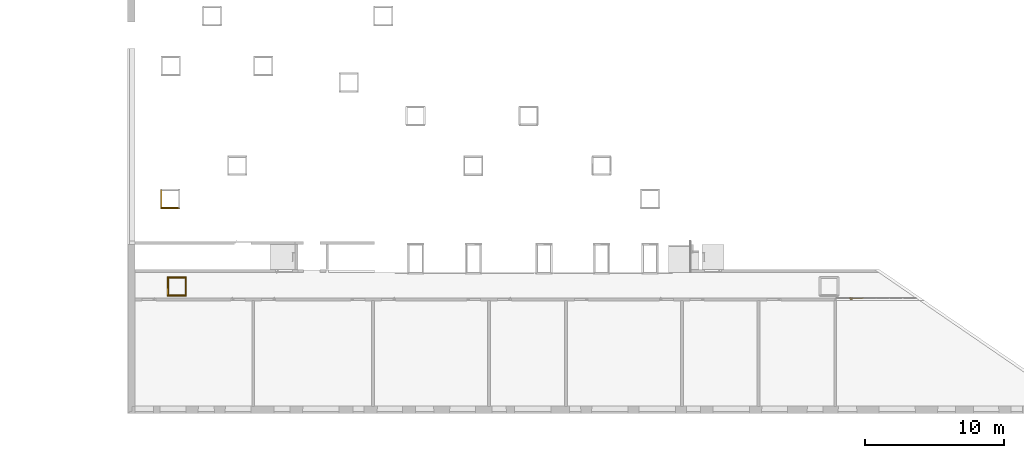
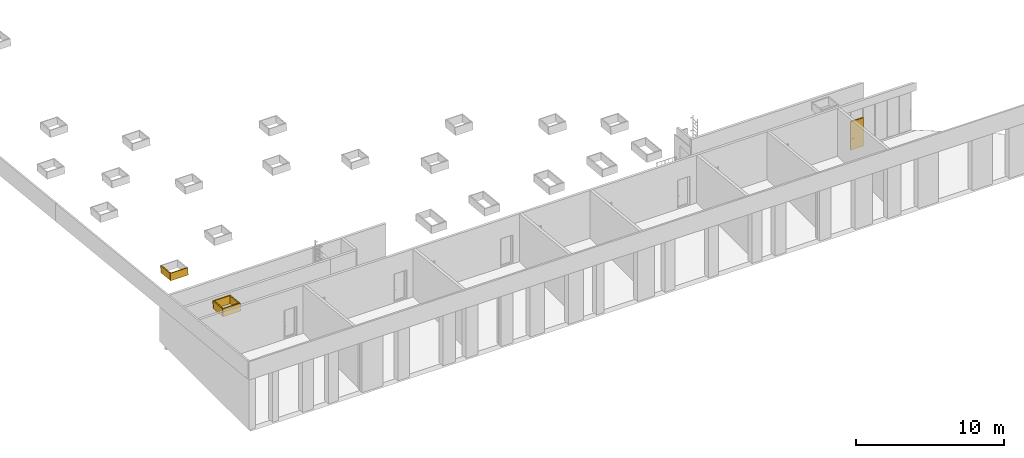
# One storey, part 11 of 23: 6 coverings, 1 door, 1 element without a shape of its own.
"""IFC2X3 building model written with IfcOpenShell, lengths in millimetres."""

from ifc_helpers import new_model, entity, si_unit, converted_unit, derived_unit, money_unit, direction, frame, origin_with_axes, place, context, subcontext, project, spatial, open_shell, faceted_brep, surface_model, material, material_list, type_object, element, aggregate, save


model = new_model("IFC2X3")

# Units and contexts
model_context = context("Model", 3, precision=0.01, world=origin_with_axes(), true_north=direction((0.0, 1.0)))
body_context = subcontext(model_context, "Body", "Model", "MODEL_VIEW")
ifc_project = project(units=[si_unit("LENGTHUNIT", "METRE", prefix="MILLI"), si_unit("AREAUNIT", "SQUARE_METRE"), si_unit("VOLUMEUNIT", "CUBIC_METRE"), converted_unit("PLANEANGLEUNIT", "DEGREE", entity("IfcPlaneAngleMeasure", 0.0174532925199), si_unit("PLANEANGLEUNIT", "RADIAN"), dimensions=[0, 0, 0, 0, 0, 0, 0]), si_unit("SOLIDANGLEUNIT", "STERADIAN"), money_unit("EUR"), converted_unit("TIMEUNIT", "Year", entity("IfcTimeMeasure", 31556926.0), si_unit("TIMEUNIT", "SECOND"), dimensions=[0, 0, 1, 0, 0, 0, 0]), si_unit("MASSUNIT", "GRAM", prefix="KILO"), si_unit("THERMODYNAMICTEMPERATUREUNIT", "DEGREE_CELSIUS"), si_unit("LUMINOUSINTENSITYUNIT", "LUMEN"), si_unit("ENERGYUNIT", "JOULE", prefix="MEGA"), derived_unit("THERMALCONDUCTANCEUNIT", [(si_unit("POWERUNIT", "WATT"), 1), (si_unit("LENGTHUNIT", "METRE"), -1), (si_unit("THERMODYNAMICTEMPERATUREUNIT", "KELVIN"), -1)]), derived_unit("SPECIFICHEATCAPACITYUNIT", [(si_unit("ENERGYUNIT", "JOULE"), 1), (si_unit("MASSUNIT", "GRAM", prefix="KILO"), -1), (si_unit("THERMODYNAMICTEMPERATUREUNIT", "KELVIN"), -1)]), derived_unit("MASSDENSITYUNIT", [(si_unit("MASSUNIT", "GRAM", prefix="KILO"), 1), (si_unit("VOLUMEUNIT", "CUBIC_METRE"), -1)])], contexts=[model_context])

# Site, building, storey
site_placement = place(None, origin_with_axes())
site = spatial("IfcSite", under=ifc_project, at=site_placement, Name="L.Koidula tn 11b", CompositionType="ELEMENT")
building_placement = place(site_placement, origin_with_axes())
building = spatial("IfcBuilding", under=site, at=building_placement, Name="Rakvere Riigigümnaasium", CompositionType="ELEMENT")
storey_placement = place(building_placement, frame((0.0, 0.0, 7440.0), z_axis=(0.0, 0.0, 1.0), x_axis=(1.0, 0.0, 0.0)))
storey = spatial("IfcBuildingStorey", under=building, at=storey_placement, Name="3.korrus +7,44", CompositionType="ELEMENT", Elevation=7440.0)

# Curtain wall, door
curtain_wall_type = type_object("IfcCurtainWallType", Name="Curtain Wall Type", PredefinedType="NOTDEFINED")
curtain_wall_placement = place(storey_placement, frame((90131.4965427, 13261.4543717, 0.0), z_axis=(0.0, 0.0, 1.0), x_axis=(1.0, 0.0, 0.0)))
curtain_wall = element("IfcCurtainWall", 1, at=curtain_wall_placement, inside=storey, type_object=curtain_wall_type, Name="SKLF-30")
ifc_material_1 = material(Name="Alumiiniumprofiil")
ifc_material_2 = material(Name="VKR-05_Klaas")
ifc_material_3 = material(Name="ET-07_Teras - Roostevaba")
ifc_material_list_1 = material_list([ifc_material_1, ifc_material_2, ifc_material_3])
door_style = type_object("IfcDoorStyle", Name="Siseklaasfassaad - Klaasuks-Doubleline 30 x 2385 x -38", ConstructionType="NOTDEFINED", OperationType="NOTDEFINED", ParameterTakesPrecedence=False, Sizeable=False)
door_placement = place(curtain_wall_placement, frame((-2841.00000164, 0.0, 1200.0), z_axis=(0.0, 0.0, 1.0), x_axis=(1.0, 0.0, 0.0)))
door = element("IfcDoor", 2, at=door_placement, type_object=door_style, material=ifc_material_list_1, Name="Panel-Siseklaasf-005", ObjectType="DOOR", context=body_context, shape_type="SurfaceModel", body=[
    faceted_brep([(-503.500004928, -35.0, -1200.0), (-503.500004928, -35.0, 1200.0), (-503.500004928, -21.0, 1200.0), (-503.500004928, -21.0, -1200.0), (-457.500004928, -35.0, -1200.0), (-457.500004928, -35.0, 1154.0), (-457.500004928, -21.0, 1154.0), (-457.500004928, -21.0, -1200.0)], [[[0, 1, 2, 3]], [[0, 4, 5, 1]], [[1, 5, 6, 2]], [[3, 2, 6, 7]], [[4, 0, 3, 7]], [[5, 4, 7, 6]]]),
    faceted_brep([(503.499995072, -35.0, 1200.0), (457.499995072, -35.0, 1154.0), (457.499995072, -21.0, 1154.0), (503.499995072, -21.0, 1200.0), (-503.500004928, -35.0, 1200.0), (-457.500004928, -35.0, 1154.0), (-457.500004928, -21.0, 1154.0), (-503.500004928, -21.0, 1200.0)], [[[0, 1, 2, 3]], [[0, 4, 5, 1]], [[1, 5, 6, 2]], [[3, 2, 6, 7]], [[4, 0, 3, 7]], [[5, 4, 7, 6]]]),
    faceted_brep([(503.499995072, -35.0, -1200.0), (457.499995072, -35.0, -1200.0), (457.499995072, -21.0, -1200.0), (503.499995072, -21.0, -1200.0), (503.499995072, -35.0, 1200.0), (457.499995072, -35.0, 1154.0), (457.499995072, -21.0, 1154.0), (503.499995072, -21.0, 1200.0)], [[[0, 1, 2, 3]], [[0, 4, 5, 1]], [[1, 5, 6, 2]], [[3, 2, 6, 7]], [[4, 0, 3, 7]], [[5, 4, 7, 6]]]),
    faceted_brep([(-503.500004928, -21.0, -1200.0), (-503.500004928, -21.0, 1200.0), (-503.500004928, 19.0, 1200.0), (-503.500004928, 19.0, -1200.0), (-465.500004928, -21.0, -1200.0), (-465.500004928, -21.0, 1162.0), (-465.500004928, 19.0, 1162.0), (-465.500004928, 19.0, -1200.0)], [[[0, 1, 2, 3]], [[0, 4, 5, 1]], [[1, 5, 6, 2]], [[3, 2, 6, 7]], [[4, 0, 3, 7]], [[5, 4, 7, 6]]]),
    faceted_brep([(503.499995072, -21.0, 1200.0), (465.499995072, -21.0, 1162.0), (465.499995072, 19.0, 1162.0), (503.499995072, 19.0, 1200.0), (-503.500004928, -21.0, 1200.0), (-465.500004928, -21.0, 1162.0), (-465.500004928, 19.0, 1162.0), (-503.500004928, 19.0, 1200.0)], [[[0, 1, 2, 3]], [[0, 4, 5, 1]], [[1, 5, 6, 2]], [[3, 2, 6, 7]], [[4, 0, 3, 7]], [[5, 4, 7, 6]]]),
    faceted_brep([(503.499995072, -21.0, -1200.0), (465.499995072, -21.0, -1200.0), (465.499995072, 19.0, -1200.0), (503.499995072, 19.0, -1200.0), (503.499995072, -21.0, 1200.0), (465.499995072, -21.0, 1162.0), (465.499995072, 19.0, 1162.0), (503.499995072, 19.0, 1200.0)], [[[0, 1, 2, 3]], [[0, 4, 5, 1]], [[1, 5, 6, 2]], [[3, 2, 6, 7]], [[4, 0, 3, 7]], [[5, 4, 7, 6]]]),
    faceted_brep([(453.499995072, -21.0, -1188.0), (453.499995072, -21.0, 1150.0), (453.499995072, -9.0, 1150.0), (453.499995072, -9.0, -1188.0), (465.499995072, -21.0, -1200.0), (465.499995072, -21.0, 1162.0), (465.499995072, -9.0, 1162.0), (465.499995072, -9.0, -1200.0)], [[[0, 1, 2, 3]], [[0, 4, 5, 1]], [[1, 5, 6, 2]], [[3, 2, 6, 7]], [[4, 0, 3, 7]], [[5, 4, 7, 6]]]),
    faceted_brep([(-465.500004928, -21.0, -1200.0), (-465.500004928, -21.0, 1162.0), (-465.500004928, -9.0, 1162.0), (-465.500004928, -9.0, -1200.0), (-453.500004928, -21.0, -1188.0), (-453.500004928, -21.0, 1150.0), (-453.500004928, -9.0, 1150.0), (-453.500004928, -9.0, -1188.0)], [[[0, 1, 2, 3]], [[0, 4, 5, 1]], [[1, 5, 6, 2]], [[3, 2, 6, 7]], [[4, 0, 3, 7]], [[5, 4, 7, 6]]]),
    faceted_brep([(-465.500004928, -21.0, -1200.0), (-453.500004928, -21.0, -1188.0), (-453.500004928, -9.0, -1188.0), (-465.500004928, -9.0, -1200.0), (465.499995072, -21.0, -1200.0), (453.499995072, -21.0, -1188.0), (453.499995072, -9.0, -1188.0), (465.499995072, -9.0, -1200.0)], [[[0, 1, 2, 3]], [[0, 4, 5, 1]], [[1, 5, 6, 2]], [[3, 2, 6, 7]], [[4, 0, 3, 7]], [[5, 4, 7, 6]]]),
    faceted_brep([(465.499995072, -21.0, 1162.0), (453.499995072, -21.0, 1150.0), (453.499995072, -9.0, 1150.0), (465.499995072, -9.0, 1162.0), (-465.500004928, -21.0, 1162.0), (-453.500004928, -21.0, 1150.0), (-453.500004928, -9.0, 1150.0), (-465.500004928, -9.0, 1162.0)], [[[0, 1, 2, 3]], [[0, 4, 5, 1]], [[1, 5, 6, 2]], [[3, 2, 6, 7]], [[4, 0, 3, 7]], [[5, 4, 7, 6]]]),
    faceted_brep([(453.499995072, -35.0, -1188.0), (-453.500004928, -35.0, -1188.0), (-453.500004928, -19.0, -1188.0), (453.499995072, -19.0, -1188.0), (453.499995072, -35.0, 1150.0), (-453.500004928, -35.0, 1150.0), (-453.500004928, -19.0, 1150.0), (453.499995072, -19.0, 1150.0)], [[[0, 1, 2, 3]], [[0, 4, 5, 1]], [[1, 5, 6, 2]], [[3, 2, 6, 7]], [[4, 0, 3, 7]], [[5, 4, 7, 6]]]),
    faceted_brep([(-444.000004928, -9.0, -178.0), (-387.000004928, -9.0, -178.0), (-387.000004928, -6.0, -178.0), (-444.000004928, -6.0, -178.0), (-444.000004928, -9.0, -368.0), (-387.000004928, -9.0, -368.0), (-387.000004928, -6.0, -368.0), (-444.000004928, -6.0, -368.0)], [[[0, 1, 2, 3]], [[0, 4, 5, 1]], [[1, 5, 6, 2]], [[3, 2, 6, 7]], [[4, 0, 3, 7]], [[5, 4, 7, 6]]]),
    surface_model("IfcShellBasedSurfaceModel", [(-415.500004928, 55.0, -248.0), (-424.160258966, 55.0, -243.0), (-424.160258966, 62.0, -243.0), (-415.500004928, 62.0, -248.0), (-390.500004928, 55.0, -248.0), (-390.500004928, 55.0, -228.0), (-415.500004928, 55.0, -228.0), (-424.160258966, 55.0, -233.0), (-424.160258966, 62.0, -233.0), (-415.500004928, 62.0, -228.0), (-390.500004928, 62.0, -228.0), (-390.500004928, 62.0, -248.0)], [open_shell([[[0, 1, 2, 3]], [[0, 4, 5, 6, 7, 1]], [[1, 7, 8, 2]], [[3, 2, 8, 9, 10, 11]], [[4, 0, 3, 11]], [[6, 5, 10, 9]], [[7, 6, 9, 8]]])]),
    surface_model("IfcShellBasedSurfaceModel", [(-390.500004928, 55.0, -228.0), (-377.401722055, 55.0, -228.392699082), (-377.096095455, 62.0, -228.392699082), (-390.500004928, 55.0, -248.0), (-377.401722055, 55.0, -247.607300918), (-350.390288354, 59.6635446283, -229.178097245), (-390.500004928, 62.0, -228.0), (-390.500004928, 62.0, -248.0), (-351.304842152, 52.716818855, -246.821902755), (-351.304842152, 52.716818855, -229.178097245), (-350.390288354, 59.6635446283, -246.821902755), (-377.096095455, 62.0, -247.607300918), (-325.506261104, 48.1678329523, -246.036504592), (-325.506261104, 48.1678329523, -229.963495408), (-323.989740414, 55.0084157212, -229.963495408), (-323.989740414, 55.0084157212, -246.036504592), (-300.20232169, 41.3876628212, -245.251106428), (-300.20232169, 41.3876628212, -230.748893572), (-298.095375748, 48.0700416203, -230.748893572), (-298.095375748, 48.0700416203, -245.251106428), (-292.329446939, 38.5221707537, -245.0), (-292.329446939, 38.5221707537, -231.0), (-290.038800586, 45.1376880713, -231.0), (-290.038800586, 45.1376880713, -245.0)], [open_shell([[[0, 1, 2]], [[0, 3, 4, 1]], [[1, 5, 2]], [[0, 2, 6]], [[4, 3, 7]], [[1, 4, 8, 9]], [[1, 9, 5]], [[2, 5, 10, 11]], [[6, 2, 11, 7]], [[4, 7, 11]], [[8, 4, 11]], [[9, 8, 12, 13]], [[9, 14, 5]], [[5, 14, 15, 10]], [[8, 11, 10]], [[12, 8, 10]], [[13, 12, 16, 17]], [[9, 13, 14]], [[14, 18, 19, 15]], [[12, 10, 15]], [[16, 12, 15]], [[17, 16, 20, 21]], [[13, 17, 18]], [[13, 18, 14]], [[18, 22, 23, 19]], [[16, 15, 19]], [[20, 16, 19]], [[21, 20, 23, 22]], [[17, 21, 22]], [[17, 22, 18]], [[20, 19, 23]]])]),
    faceted_brep([(-411.791800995, 4.0, -249.412678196), (-403.500004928, 4.0, -238.0), (-402.500004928, -6.0, -238.0), (-411.482784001, -6.0, -250.363734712), (-425.20820886, 4.0, -245.053423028), (-425.20820886, 4.0, -230.946576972), (-411.791800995, 4.0, -226.587321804), (-411.482784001, -6.0, -225.636265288), (-426.017225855, -6.0, -230.35879172), (-426.017225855, -6.0, -245.64120828)], [[[0, 1, 2, 3]], [[1, 0, 4, 5, 6]], [[1, 6, 7, 2]], [[2, 7, 8, 9, 3]], [[4, 0, 3, 9]], [[5, 4, 9, 8]], [[6, 5, 8, 7]]]),
    faceted_brep([(-409.31966504, -2.0, -352.021130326), (-395.500004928, -2.0, -333.0), (-393.500004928, -6.0, -333.0), (-408.701631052, -6.0, -353.923243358), (-431.680344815, -2.0, -344.755705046), (-431.680344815, -2.0, -321.244294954), (-409.31966504, -2.0, -313.978869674), (-408.701631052, -6.0, -312.076756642), (-433.298378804, -6.0, -320.06872445), (-433.298378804, -6.0, -345.93127555)], [[[0, 1, 2, 3]], [[1, 0, 4, 5, 6]], [[1, 6, 7, 2]], [[2, 7, 8, 9, 3]], [[4, 0, 3, 9]], [[5, 4, 9, 8]], [[6, 5, 8, 7]]]),
    faceted_brep([(-413.336885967, 0.0, -330.657395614), (-408.500004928, 0.0, -324.0), (-407.500004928, -2.0, -324.0), (-413.027868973, -2.0, -331.60845213), (-421.163123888, 0.0, -328.114496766), (-421.163123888, 0.0, -319.885503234), (-413.336885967, 0.0, -317.342604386), (-413.027868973, -2.0, -316.39154787), (-421.972140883, -2.0, -319.297717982), (-421.972140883, -2.0, -328.702282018)], [[[0, 1, 2, 3]], [[1, 0, 4, 5, 6]], [[1, 6, 7, 2]], [[2, 7, 8, 9, 3]], [[4, 0, 3, 9]], [[5, 4, 9, 8]], [[6, 5, 8, 7]]]),
    faceted_brep([(-415.500004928, 4.0, -228.0), (-405.989439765, 4.0, -234.909830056), (-405.989439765, 55.0, -234.909830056), (-415.500004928, 55.0, -228.0), (-425.010570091, 4.0, -234.909830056), (-421.377857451, 4.0, -246.090169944), (-409.622152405, 4.0, -246.090169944), (-409.622152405, 55.0, -246.090169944), (-421.377857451, 55.0, -246.090169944), (-425.010570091, 55.0, -234.909830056)], [[[0, 1, 2, 3]], [[0, 4, 5, 6, 1]], [[1, 6, 7, 2]], [[3, 2, 7, 8, 9]], [[4, 0, 3, 9]], [[5, 4, 9, 8]], [[6, 5, 8, 7]]]),
    faceted_brep([(-444.000004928, -21.0, -178.0), (-444.000004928, -24.0, -178.0), (-387.000004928, -24.0, -178.0), (-387.000004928, -21.0, -178.0), (-444.000004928, -21.0, -368.0), (-444.000004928, -24.0, -368.0), (-387.000004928, -24.0, -368.0), (-387.000004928, -21.0, -368.0)], [[[0, 1, 2, 3]], [[4, 5, 1, 0]], [[1, 5, 6, 2]], [[3, 2, 6, 7]], [[0, 3, 7, 4]], [[7, 6, 5, 4]]]),
    surface_model("IfcShellBasedSurfaceModel", [(-415.500004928, -85.0, -248.0), (-415.500004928, -92.0, -248.0), (-424.160258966, -92.0, -243.0), (-424.160258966, -85.0, -243.0), (-390.500004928, -85.0, -248.0), (-390.500004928, -92.0, -248.0), (-390.500004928, -92.0, -228.0), (-415.500004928, -92.0, -228.0), (-424.160258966, -92.0, -233.0), (-424.160258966, -85.0, -233.0), (-415.500004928, -85.0, -228.0), (-390.500004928, -85.0, -228.0)], [open_shell([[[0, 1, 2, 3]], [[4, 5, 1, 0]], [[1, 5, 6, 7, 8, 2]], [[3, 2, 8, 9]], [[0, 3, 9, 10, 11, 4]], [[10, 7, 6, 11]], [[9, 8, 7, 10]]])]),
    surface_model("IfcShellBasedSurfaceModel", [(-390.500004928, -85.0, -228.0), (-377.096095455, -92.0, -228.392699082), (-377.401722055, -85.0, -228.392699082), (-390.500004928, -92.0, -228.0), (-350.390288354, -89.6635446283, -229.178097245), (-377.401722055, -85.0, -247.607300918), (-390.500004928, -85.0, -248.0), (-390.500004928, -92.0, -248.0), (-377.096095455, -92.0, -247.607300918), (-350.390288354, -89.6635446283, -246.821902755), (-351.304842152, -82.716818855, -229.178097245), (-351.304842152, -82.716818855, -246.821902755), (-323.989740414, -85.0084157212, -246.036504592), (-323.989740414, -85.0084157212, -229.963495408), (-325.506261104, -78.1678329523, -229.963495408), (-325.506261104, -78.1678329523, -246.036504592), (-298.095375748, -78.0700416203, -245.251106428), (-298.095375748, -78.0700416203, -230.748893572), (-300.20232169, -71.3876628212, -230.748893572), (-300.20232169, -71.3876628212, -245.251106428), (-290.038800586, -75.1376880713, -245.0), (-290.038800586, -75.1376880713, -231.0), (-292.329446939, -68.5221707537, -231.0), (-292.329446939, -68.5221707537, -245.0)], [open_shell([[[0, 1, 2]], [[0, 3, 1]], [[2, 1, 4]], [[0, 2, 5, 6]], [[3, 7, 8, 1]], [[1, 8, 9, 4]], [[2, 4, 10]], [[2, 10, 11, 5]], [[5, 7, 6]], [[5, 8, 7]], [[11, 9, 8]], [[4, 9, 12, 13]], [[10, 4, 13]], [[10, 14, 15, 11]], [[11, 8, 5]], [[15, 9, 11]], [[15, 12, 9]], [[13, 12, 16, 17]], [[10, 13, 14]], [[14, 18, 19, 15]], [[19, 12, 15]], [[19, 16, 12]], [[17, 16, 20, 21]], [[14, 13, 17]], [[14, 17, 18]], [[18, 22, 23, 19]], [[23, 16, 19]], [[23, 20, 16]], [[22, 21, 20, 23]], [[18, 17, 21]], [[18, 21, 22]]])]),
    faceted_brep([(-411.791800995, -34.0, -249.412678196), (-411.482784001, -24.0, -250.363734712), (-402.500004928, -24.0, -238.0), (-403.500004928, -34.0, -238.0), (-425.20820886, -34.0, -245.053423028), (-426.017225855, -24.0, -245.64120828), (-426.017225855, -24.0, -230.35879172), (-411.482784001, -24.0, -225.636265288), (-411.791800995, -34.0, -226.587321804), (-425.20820886, -34.0, -230.946576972)], [[[0, 1, 2, 3]], [[4, 5, 1, 0]], [[2, 1, 5, 6, 7]], [[3, 2, 7, 8]], [[3, 8, 9, 4, 0]], [[9, 6, 5, 4]], [[8, 7, 6, 9]]]),
    faceted_brep([(-409.31966504, -28.0, -352.021130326), (-408.701631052, -24.0, -353.923243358), (-393.500004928, -24.0, -333.0), (-395.500004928, -28.0, -333.0), (-431.680344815, -28.0, -344.755705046), (-433.298378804, -24.0, -345.93127555), (-433.298378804, -24.0, -320.06872445), (-408.701631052, -24.0, -312.076756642), (-409.31966504, -28.0, -313.978869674), (-431.680344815, -28.0, -321.244294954)], [[[0, 1, 2, 3]], [[4, 5, 1, 0]], [[2, 1, 5, 6, 7]], [[3, 2, 7, 8]], [[3, 8, 9, 4, 0]], [[9, 6, 5, 4]], [[8, 7, 6, 9]]]),
    faceted_brep([(-413.336885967, -30.0, -330.657395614), (-413.027868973, -28.0, -331.60845213), (-407.500004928, -28.0, -324.0), (-408.500004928, -30.0, -324.0), (-421.163123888, -30.0, -328.114496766), (-421.972140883, -28.0, -328.702282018), (-421.972140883, -28.0, -319.297717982), (-413.027868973, -28.0, -316.39154787), (-413.336885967, -30.0, -317.342604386), (-421.163123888, -30.0, -319.885503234)], [[[0, 1, 2, 3]], [[4, 5, 1, 0]], [[2, 1, 5, 6, 7]], [[3, 2, 7, 8]], [[3, 8, 9, 4, 0]], [[9, 6, 5, 4]], [[8, 7, 6, 9]]]),
    faceted_brep([(-415.500004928, -34.0, -228.0), (-415.500004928, -85.0, -228.0), (-405.989439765, -85.0, -234.909830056), (-405.989439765, -34.0, -234.909830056), (-425.010570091, -34.0, -234.909830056), (-425.010570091, -85.0, -234.909830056), (-421.377857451, -85.0, -246.090169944), (-409.622152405, -85.0, -246.090169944), (-409.622152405, -34.0, -246.090169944), (-421.377857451, -34.0, -246.090169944)], [[[0, 1, 2, 3]], [[4, 5, 1, 0]], [[1, 5, 6, 7, 2]], [[3, 2, 7, 8]], [[0, 3, 8, 9, 4]], [[9, 6, 5, 4]], [[8, 7, 6, 9]]]),
])
aggregate(curtain_wall, [door])

# Coverings
ifc_material_4 = material(Name="SKR-02_Kipsplaat")
ifc_material_5 = material(Name="mineraalvill+karkass")
ifc_material_list_2 = material_list([ifc_material_4, ifc_material_4, ifc_material_5])
covering_type = type_object("IfcCoveringType", Name="SA-2xkips 91", PredefinedType="NOTDEFINED")
covering_1_placement = place(storey_placement, frame((37432.8267311, 19751.510356, 2623.93461149), z_axis=(0.0, 0.0, 1.0), x_axis=(1.0, 0.0, 0.0)))
element("IfcCovering", 3, at=covering_1_placement, inside=storey, type_object=covering_type, material=ifc_material_list_2, Name="Ava-pinnakate", PredefinedType="NOTDEFINED", context=body_context, shape_type="Brep", body=[
    faceted_brep([(-12.4914512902, 59.1790894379, 563.051393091), (1212.51010327, 59.179089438, 563.051393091), (1212.50163487, 0.0, 0.0), (-12.5000001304, 0.0, 0.0), (1212.50832434, 46.7475624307, 564.35799923), (-12.4932471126, 46.7475624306, 564.35799923), (1212.49984824, -12.4854018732, 0.793989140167), (1212.50092925, -4.93109982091, 0.0), (-12.5007124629, -4.93109982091, 0.0), (-12.5018037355, -12.4854018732, 0.793989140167)], [[[0, 1, 2, 3]], [[4, 1, 0, 5]], [[1, 4, 6, 7, 2]], [[2, 7, 8, 3]], [[5, 0, 3, 8, 9]], [[4, 5, 9, 6]], [[9, 8, 7, 6]]]),
    faceted_brep([(-24.9932471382, 46.7475624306, 564.35799923), (1225.00832453, 46.7475624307, 564.35799923), (1224.99984891, -12.4854018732, 0.793989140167), (-25.0018025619, -12.4854018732, 0.793989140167), (1225.00654561, 34.3160387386, 565.664605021), (-24.9950429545, 34.3160387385, 565.664605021), (1224.99806999, -24.9169255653, 2.10059493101), (-25.0035983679, -24.9169255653, 2.10059493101)], [[[0, 1, 2, 3]], [[4, 1, 0, 5]], [[1, 4, 6, 2]], [[7, 3, 2, 6]], [[5, 0, 3, 7]], [[4, 5, 7, 6]]]),
    faceted_brep([(-90.9950437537, 34.3160387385, 565.664605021), (1291.00654551, 34.3160387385, 565.664605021), (1290.99806941, -24.9169255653, 2.10059493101), (-91.0036003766, -24.9169255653, 2.10059493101), (1290.9971528, -31.32240723, 572.563483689), (-91.0045256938, -31.32240723, 572.563483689), (1290.98867671, -90.5553706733, 8.99947350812), (-91.0130823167, -90.5553706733, 8.99947350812)], [[[0, 1, 2, 3]], [[4, 1, 0, 5]], [[1, 4, 6, 2]], [[7, 3, 2, 6]], [[5, 0, 3, 7]], [[4, 5, 7, 6]]]),
])
covering_2_placement = place(storey_placement, frame((37432.9989912, 20943.9753896, 2413.26633301), z_axis=(0.0, 0.0, 1.0), x_axis=(-0.000144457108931, -0.999999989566, 0.0)))
element("IfcCovering", 4, at=covering_2_placement, inside=storey, type_object=covering_type, material=ifc_material_list_2, Name="Ava-pinnakate", PredefinedType="NOTDEFINED", context=body_context, shape_type="Brep", body=[
    faceted_brep([(-60.1385805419, -12.5, 648.285509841), (-60.1403862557, -5.58642909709e-07, 648.285509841), (-0.90742133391, -8.42703684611e-09, 84.7214997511), (-0.905615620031, -12.5, 84.7214997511), (1133.28595596, -1.74090075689e-07, 773.719671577), (1133.28776167, -12.4999999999, 773.719671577), (1192.46504601, -1.1754579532e-06, 210.668278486), (1192.46504601, -1.1754579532e-06, 210.14999901), (1192.46684729, -12.4999999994, 210.149998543), (1192.46685173, -12.4999999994, 210.668278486)], [[[0, 1, 2, 3]], [[4, 1, 0, 5]], [[1, 4, 6, 7, 2]], [[8, 3, 2, 7]], [[5, 0, 3, 8, 9]], [[4, 5, 9, 6]], [[9, 8, 7, 6]]]),
    faceted_brep([(-72.5682986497, -25.0000006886, 646.97890405), (-72.5701043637, -12.5, 646.97890405), (-13.3371394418, -12.5, 83.4148939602), (-13.3353337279, -25.0000006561, 83.4148939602), (1145.71928881, -12.5, 775.026277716), (1145.72109452, -24.9999998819, 775.026277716), (1204.95225373, -12.5, 211.462267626), (1197.3979516, -12.5, 210.668278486), (1192.46504601, -12.5, 210.668278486), (1192.46504601, -12.5, 210.149809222), (1192.46504601, -24.9999985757, 210.149619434), (1192.46504601, -24.9999985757, 210.668278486), (1197.39975731, -24.9999985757, 210.668278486), (1204.95405944, -24.9999985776, 211.462267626)], [[[0, 1, 2, 3]], [[4, 1, 0, 5]], [[1, 4, 6, 7, 8, 9, 2]], [[10, 3, 2, 9]], [[5, 0, 3, 10, 11, 12, 13]], [[4, 5, 13, 6]], [[13, 12, 7, 6]], [[8, 7, 12, 11]], [[11, 10, 9, 8]]]),
    faceted_brep([(-84.9902883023, -91.0, 645.67229826), (-84.9998224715, -25.0000006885, 645.67229826), (-25.7668575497, -25.000000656, 82.1082881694), (-25.7573233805, -91.0, 82.1082881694), (1158.15261834, -24.9999998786, 776.332883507), (1158.16215251, -91.0, 776.332883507), (1217.38558327, -24.9999985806, 212.768873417), (1197.39975731, -24.9999985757, 210.668278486), (1192.46504601, -24.9999985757, 210.668278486), (1192.46504601, -24.9999985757, 210.149619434), (1192.46504601, -91.0, 210.148617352), (1192.46504601, -91.0, 210.668278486), (1197.40929148, -91.0, 210.668278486), (1217.39511744, -91.0, 212.768873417)], [[[0, 1, 2, 3]], [[4, 1, 0, 5]], [[1, 4, 6, 7, 8, 9, 2]], [[10, 3, 2, 9]], [[5, 0, 3, 10, 11, 12, 13]], [[4, 5, 13, 6]], [[13, 12, 7, 6]], [[8, 7, 12, 11]], [[11, 10, 9, 8]]]),
])
covering_3_placement = place(storey_placement, frame((39111.2874088, 14660.4284417, 3149.77442569), z_axis=(0.0, 0.0, 1.0), x_axis=(-1.0, 0.0, 0.0)))
element("IfcCovering", 5, at=covering_3_placement, inside=storey, type_object=covering_type, material=ifc_material_list_2, Name="Ava-pinnakate", PredefinedType="NOTDEFINED", context=body_context, shape_type="Brep", body=[
    faceted_brep([(-12.500130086, -0.908176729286, 8.64072439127), (-12.5019090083, -13.3397004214, 7.33411860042), (-12.5112045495, -78.2991064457, 625.381582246), (-12.5094256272, -65.8675827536, 626.688188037), (1212.49808681, -13.3397004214, 7.33411860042), (1212.49988263, -0.908176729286, 8.64072439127), (1212.48870296, -78.2991064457, 625.381582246), (1212.49049878, -65.8675827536, 626.688188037)], [[[0, 1, 2, 3]], [[4, 1, 0, 5]], [[1, 4, 6, 2]], [[7, 3, 2, 6]], [[5, 0, 3, 7]], [[4, 5, 7, 6]]]),
    faceted_brep([(-25.0019091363, -13.3397004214, 7.33411860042), (-25.0036880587, -25.7712241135, 6.02751280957), (-25.0129835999, -90.7306301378, 624.074976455), (-25.0112046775, -78.2991064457, 625.381582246), (1224.99629111, -25.7712241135, 6.02751280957), (1224.99808694, -13.3397004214, 7.33411860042), (1224.98690727, -90.7306301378, 624.074976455), (1224.98870309, -78.2991064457, 625.381582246)], [[[0, 1, 2, 3]], [[4, 1, 0, 5]], [[1, 4, 6, 2]], [[7, 3, 2, 6]], [[5, 0, 3, 7]], [[4, 5, 7, 6]]]),
    faceted_brep([(-91.0036887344, -25.7712241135, 6.02751280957), (-91.0118950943, -83.1191777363, 0.0), (-91.01309455, -91.5012534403, 0.0), (-91.0223769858, -156.369075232, 617.176097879), (-91.0129842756, -90.7306301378, 624.074976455), (1290.98800748, -83.1191777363, 0.0), (1290.9962918, -25.7712241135, 6.02751280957), (1290.98679663, -91.5012534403, 0.0), (1290.97742601, -156.369075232, 617.176097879), (1290.98690795, -90.7306301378, 624.074976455)], [[[0, 1, 2, 3, 4]], [[5, 1, 0, 6]], [[1, 5, 7, 2]], [[7, 8, 3, 2]], [[9, 4, 3, 8]], [[6, 0, 4, 9]], [[5, 6, 9, 8, 7]]]),
])
covering_4_placement = place(storey_placement, frame((37911.115135, 13467.9634081, 3284.35474162), z_axis=(0.0, 0.0, 1.0), x_axis=(1.0, 0.0, 0.0)))
element("IfcCovering", 6, at=covering_4_placement, inside=storey, type_object=covering_type, material=ifc_material_list_2, Name="Ava-pinnakate", PredefinedType="NOTDEFINED", context=body_context, shape_type="Brep", body=[
    faceted_brep([(1212.49984835, -12.4846464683, 0.801176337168), (1212.50093914, -4.8619628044, 0.0), (1212.50163487, 0.0, 0.0), (1212.51092281, 64.9062868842, 617.54203381), (1212.50914389, 52.4747595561, 618.848639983), (-12.5007024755, -4.8619628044, 0.0), (-12.5018036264, -12.4846464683, 0.801176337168), (-12.5000001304, 0.0, 0.0), (-12.4906239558, 64.9062868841, 617.54203381), (-12.4924197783, 52.474759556, 618.848639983)], [[[0, 1, 2, 3, 4]], [[5, 1, 0, 6]], [[1, 5, 7, 2]], [[7, 8, 3, 2]], [[9, 4, 3, 8]], [[6, 0, 4, 9]], [[5, 6, 9, 8, 7]]]),
    faceted_brep([(1224.99807009, -24.9161701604, 2.10778212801), (1224.99984902, -12.4846464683, 0.801176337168), (1225.00914404, 52.4747595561, 618.848639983), (1225.00736511, 40.043235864, 620.155245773), (-25.0018024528, -12.4846464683, 0.801176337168), (-25.0035982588, -24.9161701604, 2.10778212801), (-24.9924199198, 52.4747595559, 618.848639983), (-24.9942157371, 40.0432358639, 620.155245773)], [[[0, 1, 2, 3]], [[4, 1, 0, 5]], [[1, 4, 6, 2]], [[7, 3, 2, 6]], [[5, 0, 3, 7]], [[4, 5, 7, 6]]]),
    faceted_brep([(1290.98867683, -90.5546152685, 9.00666070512), (1290.99806954, -24.9161701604, 2.10778212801), (1291.00736508, 40.0432358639, 620.155245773), (1290.99797237, -25.5952101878, 627.05412445), (-91.0036002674, -24.9161701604, 2.10778212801), (-91.0130822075, -90.5546152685, 9.00666070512), (-90.9942164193, 40.0432358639, 620.155245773), (-91.0036983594, -25.5952101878, 627.05412445)], [[[0, 1, 2, 3]], [[4, 1, 0, 5]], [[1, 4, 6, 2]], [[7, 3, 2, 6]], [[5, 0, 3, 7]], [[4, 5, 7, 6]]]),
])
covering_5_placement = place(storey_placement, frame((37911.2873951, 14660.4284417, 3073.68646313), z_axis=(0.0, 0.0, 1.0), x_axis=(-0.000144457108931, -0.999999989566, 0.0)))
element("IfcCovering", 7, at=covering_5_placement, inside=storey, type_object=covering_type, material=ifc_material_list_2, Name="Ava-pinnakate", PredefinedType="NOTDEFINED", context=body_context, shape_type="Brep", body=[
    faceted_brep([(1192.46504601, -1.1754579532e-06, 210.157265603), (-0.90817673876, -8.43414227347e-09, 84.7286869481), (-65.8675834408, -6.11848349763e-07, 702.776150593), (1127.55875845, -7.71862573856e-08, 828.210312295), (1192.46504601, -1.1754579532e-06, 210.668278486), (-0.906371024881, -12.5, 84.7286869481), (1192.46684735, -12.4999999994, 210.157265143), (-65.865777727, -12.5, 702.776150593), (1127.56056417, -12.5, 828.210312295), (1192.46685173, -12.4999999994, 210.668278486)], [[[0, 1, 2, 3, 4]], [[5, 1, 0, 6]], [[1, 5, 7, 2]], [[8, 3, 2, 7]], [[4, 3, 8, 9]], [[6, 0, 4, 9]], [[5, 6, 9, 8, 7]]]),
    faceted_brep([(1192.46504601, -12.5, 210.157075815), (-13.3378948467, -12.5, 83.4220811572), (-78.2973015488, -12.5, 701.469544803), (1139.99209162, -12.5, 829.516918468), (1204.95149833, -12.5, 211.469454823), (1197.32881458, -12.5, 210.668278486), (1192.46504601, -12.5, 210.668278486), (-13.3360891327, -25.0000006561, 83.4220811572), (1192.46504601, -24.9999985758, 210.156886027), (-78.2954958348, -25.0000006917, 701.469544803), (1139.99389734, -25.0000000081, 829.516918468), (1204.95330404, -24.9999985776, 211.469454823), (1197.3306203, -24.9999985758, 210.668278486), (1192.46504601, -24.9999985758, 210.668278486)], [[[0, 1, 2, 3, 4, 5, 6]], [[7, 1, 0, 8]], [[1, 7, 9, 2]], [[10, 3, 2, 9]], [[11, 4, 3, 10]], [[12, 5, 4, 11]], [[5, 12, 13, 6]], [[8, 0, 6, 13]], [[7, 8, 13, 12, 11, 10, 9]]]),
    faceted_brep([(1192.46504601, -24.9999985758, 210.156886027), (-25.7676129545, -25.000000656, 82.1154753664), (-90.7270196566, -25.0000006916, 700.162939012), (1152.42542116, -25.0000000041, 830.823524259), (1217.38482786, -24.9999985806, 212.776060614), (1197.3306203, -24.9999985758, 210.668278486), (1192.46504601, -24.9999985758, 210.668278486), (-25.7580787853, -91.0, 82.1154753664), (1192.46504601, -91.0, 210.155883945), (-90.7174854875, -91.0, 700.162939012), (1152.43495533, -91.0, 830.823524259), (1217.39436203, -91.0, 212.776060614), (1197.34015447, -91.0, 210.668278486), (1192.46504601, -91.0, 210.668278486)], [[[0, 1, 2, 3, 4, 5, 6]], [[7, 1, 0, 8]], [[1, 7, 9, 2]], [[10, 3, 2, 9]], [[11, 4, 3, 10]], [[12, 5, 4, 11]], [[5, 12, 13, 6]], [[8, 0, 6, 13]], [[7, 8, 13, 12, 11, 10, 9]]]),
])
ifc_material_list_3 = material_list([ifc_material_5, ifc_material_4, ifc_material_4])
covering_6_placement = place(storey_placement, frame((39111.2874088, 14660.4284417, 3073.68646313), z_axis=(0.0, 0.0, 1.0), x_axis=(-0.000143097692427, -0.999999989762, 0.0)))
element("IfcCovering", 8, at=covering_6_placement, inside=storey, type_object=covering_type, material=ifc_material_list_3, Name="Ava-pinnakate", PredefinedType="NOTDEFINED", context=body_context, shape_type="Brep", body=[
    faceted_brep([(1192.46504578, 90.9999988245, 210.158634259), (-25.7842462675, 91.0, 82.1154753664), (-90.7436529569, 91.0, 700.162939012), (1152.40878762, 90.9999993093, 830.823524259), (1217.36819431, 90.9999993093, 212.776060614), (1197.31398674, 90.9999989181, 210.668278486), (1192.46504578, 90.9999988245, 210.668278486), (-25.7748018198, 25.0000006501, 82.1154753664), (1192.46504578, 25.0000005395, 210.157641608), (-90.7342085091, 25.0000000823, 700.162939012), (1152.41823206, 25.0000000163, 830.823524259), (1217.37763875, 25.0000005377, 212.776060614), (1197.32343119, 25.0000005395, 210.668278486), (1192.46504578, 25.0000005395, 210.668278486)], [[[0, 1, 2, 3, 4, 5, 6]], [[7, 1, 0, 8]], [[1, 7, 9, 2]], [[10, 3, 2, 9]], [[11, 4, 3, 10]], [[12, 5, 4, 11]], [[5, 12, 13, 6]], [[8, 0, 6, 13]], [[7, 8, 13, 12, 11, 10, 9]]]),
    faceted_brep([(1192.46504578, 25.0000005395, 210.157641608), (-13.3432780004, 25.0000006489, 83.4220811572), (-78.3026846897, 25.0000000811, 701.469544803), (1139.98670824, 25.0000000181, 829.516918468), (1204.94611493, 25.0000005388, 211.469454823), (1197.32343119, 25.0000005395, 210.668278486), (1192.46504578, 25.0000005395, 210.668278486), (-13.3414892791, 12.5, 83.4220811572), (1192.46504578, 12.5, 210.157453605), (-78.3008959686, 12.5, 701.469544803), (1139.98849697, 12.5, 829.516918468), (1204.94790366, 12.5, 211.469454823), (1197.32521991, 12.5, 210.668278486), (1192.46504578, 12.5, 210.668278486)], [[[0, 1, 2, 3, 4, 5, 6]], [[7, 1, 0, 8]], [[1, 7, 9, 2]], [[10, 3, 2, 9]], [[11, 4, 3, 10]], [[12, 5, 4, 11]], [[5, 12, 13, 6]], [[8, 0, 6, 13]], [[7, 8, 13, 12, 11, 10, 9]]]),
    faceted_brep([(1192.46504578, 12.5, 210.157453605), (-0.908220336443, 12.5, 84.7288703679), (-65.8693505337, 12.5, 702.776152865), (1127.55701749, 12.5, 828.210317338), (1192.46504578, 12.5, 210.668278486), (-0.908176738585, 0.0, 84.7286869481), (1192.46504578, 0.0, 210.157265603), (-65.867583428, 0.0, 702.776150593), (1127.55875823, 0.0, 828.210312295), (1192.46504578, 0.0, 210.668278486)], [[[0, 1, 2, 3, 4]], [[5, 1, 0, 6]], [[1, 5, 7, 2]], [[8, 3, 2, 7]], [[4, 3, 8, 9]], [[6, 0, 4, 9]], [[5, 6, 9, 8, 7]]]),
])

save(model, "model.ifc")
